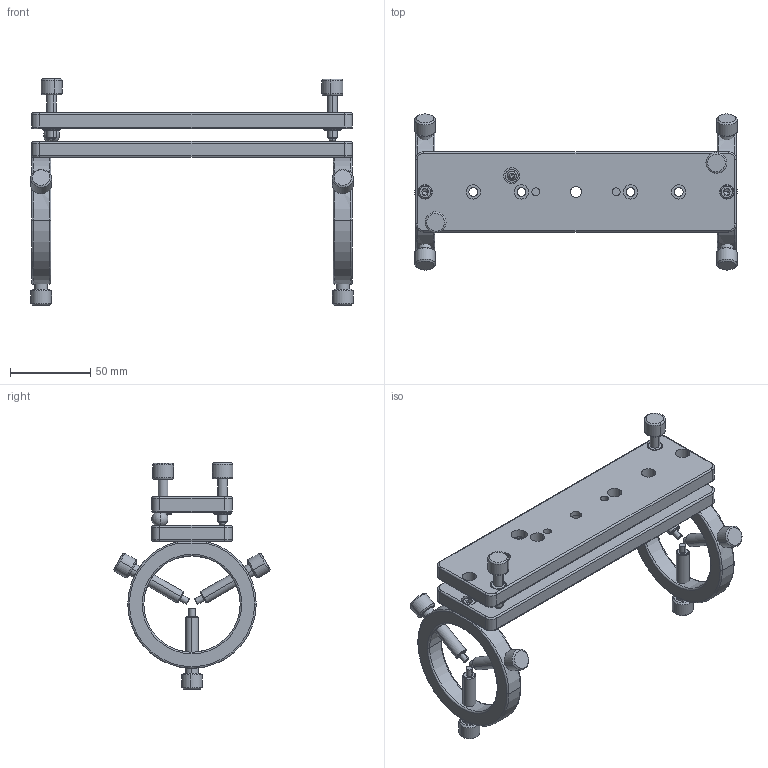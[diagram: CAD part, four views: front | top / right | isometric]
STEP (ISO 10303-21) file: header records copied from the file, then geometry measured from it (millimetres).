
FILE_DESCRIPTION (( 'STEP AP203' ), '1' );
FILE_NAME ('7MMA1慾嫖奪釱.STEP', '2019-10-24T07:44:14', ( '' ), ( '' ), 'SwSTEP 2.0', 'SolidWorks 2014', '' );
FILE_SCHEMA (( 'CONFIG_CONTROL_DESIGN' ));
Length unit declared in the file: millimetre
Products named in the file (1): 7MMA1慾嫖奪釱
Bounding box: 200.98 x 97.29 x 141 mm (x, y, z)
Surface area: 81875.2 mm2 (no closed solid volume)
Topology: 0 solids, 38 shells, 340 faces, 847 edges, 542 vertices
Faces by surface type: cylinder 136, plane 83, cone 63, torus 48, sphere 10
Entity records: 11014 total; most frequent: CARTESIAN_POINT 2671, DIRECTION 1940, ORIENTED_EDGE 1462, EDGE_CURVE 821, AXIS2_PLACEMENT_3D 814, VERTEX_POINT 533, CIRCLE 473, EDGE_LOOP 421
